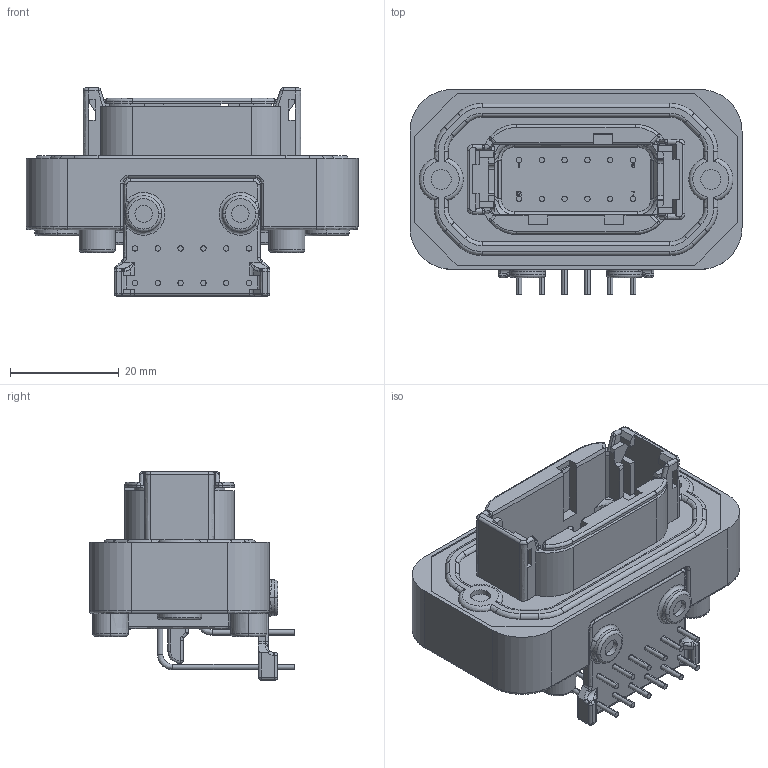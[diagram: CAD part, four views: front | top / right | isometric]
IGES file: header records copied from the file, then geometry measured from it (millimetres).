
Start section:  PTC IGES file: c-dtm13-12pc-99-3d.igs
Global section: file name: c-dtm13-12pc-99-3d.igs; native system: Pro/ENGINEER by Parametric Technology Corporation; preprocessor: 2011490; author: workeradm; organization: Unknown; units: millimetre
Bounding box: 60.96 x 37.59 x 38.21 mm (x, y, z)
Surface area: 14302.6 mm2 (no closed solid volume)
Topology: 0 solids, 0 shells, 987 faces, 4956 edges, 4956 vertices
Faces by surface type: revolution 511, bspline 476
